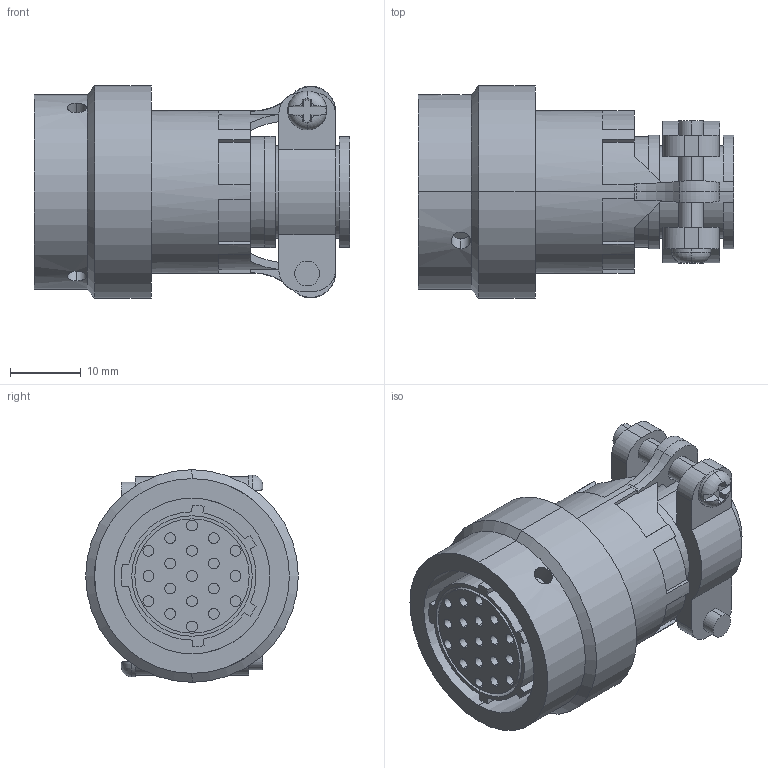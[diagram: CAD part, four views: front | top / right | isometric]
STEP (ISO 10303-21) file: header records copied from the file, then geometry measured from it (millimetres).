
FILE_DESCRIPTION (( 'STEP AP214' ), '1' );
FILE_NAME ('MS3116F14-19S.STEP', '2021-06-09T09:38:26', ( '微软用户' ), ( '微软中国' ), 'SwSTEP 2.0', 'SolidWorks 2018', '' );
FILE_SCHEMA (( 'AUTOMOTIVE_DESIGN' ));
Length unit declared in the file: millimetre
Products named in the file (1): MS3116F14-19S
Bounding box: 44.5 x 30 x 30 mm (x, y, z)
Volume: 17655.3 mm3; surface area: 10804.1 mm2
Topology: 2 solids, 2 shells, 299 faces, 758 edges, 495 vertices
Faces by surface type: plane 142, cylinder 121, torus 25, cone 11
Entity records: 9497 total; most frequent: CARTESIAN_POINT 1955, DIRECTION 1674, ORIENTED_EDGE 1516, EDGE_CURVE 758, AXIS2_PLACEMENT_3D 660, VERTEX_POINT 495, CIRCLE 360, VECTOR 354
